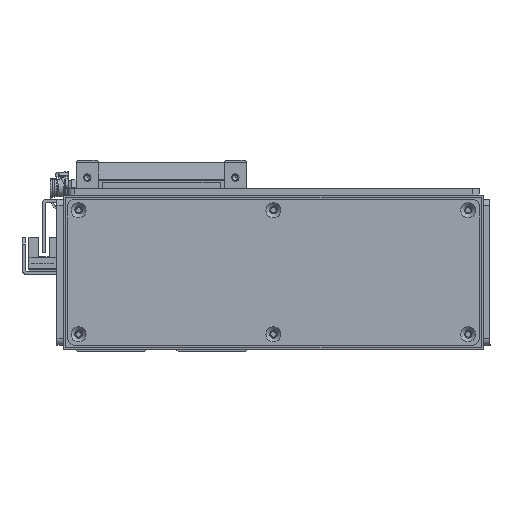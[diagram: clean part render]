
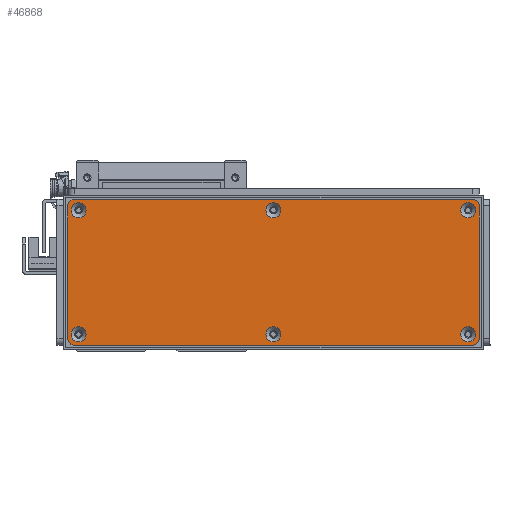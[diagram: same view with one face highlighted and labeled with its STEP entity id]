
A CAD part, front view. The second image highlights one B-rep face of the part: STEP entity #46868.
In plain terms, the highlighted planar face has unit normal (0, -1, 0) as drawn and (0, 0, 1) by its records, which use the part's own axes.
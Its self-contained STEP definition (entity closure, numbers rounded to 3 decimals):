
#2049=FACE_BOUND('',#8298,.T.);
#2050=FACE_BOUND('',#8299,.T.);
#2051=FACE_BOUND('',#8300,.T.);
#2052=FACE_BOUND('',#8301,.T.);
#2053=FACE_BOUND('',#8302,.T.);
#2054=FACE_BOUND('',#8303,.T.);
#2725=PLANE('',#50799);
#5528=FACE_OUTER_BOUND('',#8297,.T.);
#8297=EDGE_LOOP('',(#38183,#38184,#38185,#38186,#38187,#38188,#38189,#38190));
#8298=EDGE_LOOP('',(#38191));
#8299=EDGE_LOOP('',(#38192));
#8300=EDGE_LOOP('',(#38193));
#8301=EDGE_LOOP('',(#38194));
#8302=EDGE_LOOP('',(#38195));
#8303=EDGE_LOOP('',(#38196));
#11549=LINE('',#71815,#16723);
#11552=LINE('',#71823,#16726);
#11555=LINE('',#71831,#16729);
#11558=LINE('',#71838,#16732);
#16723=VECTOR('',#58485,10.);
#16726=VECTOR('',#58494,10.);
#16729=VECTOR('',#58503,10.);
#16732=VECTOR('',#58512,10.);
#21020=CIRCLE('',#50753,3.45);
#21023=CIRCLE('',#50758,3.45);
#21026=CIRCLE('',#50763,3.45);
#21029=CIRCLE('',#50768,3.45);
#21032=CIRCLE('',#50773,3.45);
#21035=CIRCLE('',#50778,3.45);
#21042=CIRCLE('',#50788,3.);
#21043=CIRCLE('',#50791,3.);
#21044=CIRCLE('',#50794,3.);
#21045=CIRCLE('',#50797,3.);
#23230=VERTEX_POINT('',#71731);
#23233=VERTEX_POINT('',#71741);
#23236=VERTEX_POINT('',#71751);
#23239=VERTEX_POINT('',#71761);
#23242=VERTEX_POINT('',#71771);
#23245=VERTEX_POINT('',#71781);
#23256=VERTEX_POINT('',#71808);
#23257=VERTEX_POINT('',#71810);
#23258=VERTEX_POINT('',#71814);
#23259=VERTEX_POINT('',#71818);
#23260=VERTEX_POINT('',#71822);
#23261=VERTEX_POINT('',#71826);
#23262=VERTEX_POINT('',#71830);
#23263=VERTEX_POINT('',#71834);
#28597=EDGE_CURVE('',#23230,#23230,#21020,.T.);
#28602=EDGE_CURVE('',#23233,#23233,#21023,.T.);
#28607=EDGE_CURVE('',#23236,#23236,#21026,.T.);
#28612=EDGE_CURVE('',#23239,#23239,#21029,.T.);
#28617=EDGE_CURVE('',#23242,#23242,#21032,.T.);
#28622=EDGE_CURVE('',#23245,#23245,#21035,.T.);
#28636=EDGE_CURVE('',#23257,#23256,#21042,.T.);
#28638=EDGE_CURVE('',#23258,#23257,#11549,.T.);
#28640=EDGE_CURVE('',#23259,#23258,#21043,.T.);
#28642=EDGE_CURVE('',#23260,#23259,#11552,.T.);
#28644=EDGE_CURVE('',#23261,#23260,#21044,.T.);
#28646=EDGE_CURVE('',#23262,#23261,#11555,.T.);
#28648=EDGE_CURVE('',#23263,#23262,#21045,.T.);
#28650=EDGE_CURVE('',#23256,#23263,#11558,.T.);
#38183=ORIENTED_EDGE('',*,*,#28650,.T.);
#38184=ORIENTED_EDGE('',*,*,#28648,.T.);
#38185=ORIENTED_EDGE('',*,*,#28646,.T.);
#38186=ORIENTED_EDGE('',*,*,#28644,.T.);
#38187=ORIENTED_EDGE('',*,*,#28642,.T.);
#38188=ORIENTED_EDGE('',*,*,#28640,.T.);
#38189=ORIENTED_EDGE('',*,*,#28638,.T.);
#38190=ORIENTED_EDGE('',*,*,#28636,.T.);
#38191=ORIENTED_EDGE('',*,*,#28597,.T.);
#38192=ORIENTED_EDGE('',*,*,#28602,.T.);
#38193=ORIENTED_EDGE('',*,*,#28607,.T.);
#38194=ORIENTED_EDGE('',*,*,#28612,.T.);
#38195=ORIENTED_EDGE('',*,*,#28617,.T.);
#38196=ORIENTED_EDGE('',*,*,#28622,.T.);
#46868=ADVANCED_FACE('',(#5528,#2049,#2050,#2051,#2052,#2053,#2054),#2725,
 .T.);
#50753=AXIS2_PLACEMENT_3D('',#71732,#58393,#58394);
#50758=AXIS2_PLACEMENT_3D('',#71742,#58405,#58406);
#50763=AXIS2_PLACEMENT_3D('',#71752,#58417,#58418);
#50768=AXIS2_PLACEMENT_3D('',#71762,#58429,#58430);
#50773=AXIS2_PLACEMENT_3D('',#71772,#58441,#58442);
#50778=AXIS2_PLACEMENT_3D('',#71782,#58453,#58454);
#50788=AXIS2_PLACEMENT_3D('',#71811,#58480,#58481);
#50791=AXIS2_PLACEMENT_3D('',#71819,#58489,#58490);
#50794=AXIS2_PLACEMENT_3D('',#71827,#58498,#58499);
#50797=AXIS2_PLACEMENT_3D('',#71835,#58507,#58508);
#50799=AXIS2_PLACEMENT_3D('',#71839,#58513,#58514);
#58393=DIRECTION('center_axis',(0.,0.,-1.));
#58394=DIRECTION('ref_axis',(1.,0.,0.));
#58405=DIRECTION('center_axis',(0.,0.,-1.));
#58406=DIRECTION('ref_axis',(1.,0.,0.));
#58417=DIRECTION('center_axis',(0.,0.,-1.));
#58418=DIRECTION('ref_axis',(1.,0.,0.));
#58429=DIRECTION('center_axis',(0.,0.,-1.));
#58430=DIRECTION('ref_axis',(1.,0.,0.));
#58441=DIRECTION('center_axis',(0.,0.,-1.));
#58442=DIRECTION('ref_axis',(1.,0.,0.));
#58453=DIRECTION('center_axis',(0.,0.,-1.));
#58454=DIRECTION('ref_axis',(1.,0.,0.));
#58480=DIRECTION('center_axis',(0.,0.,1.));
#58481=DIRECTION('ref_axis',(0.,1.,0.));
#58485=DIRECTION('',(-1.,0.,0.));
#58489=DIRECTION('center_axis',(0.,0.,1.));
#58490=DIRECTION('ref_axis',(1.,0.,0.));
#58494=DIRECTION('',(0.,1.,0.));
#58498=DIRECTION('center_axis',(0.,0.,1.));
#58499=DIRECTION('ref_axis',(0.,-1.,0.));
#58503=DIRECTION('',(1.,0.,0.));
#58507=DIRECTION('center_axis',(0.,0.,1.));
#58508=DIRECTION('ref_axis',(-1.,0.,0.));
#58512=DIRECTION('',(0.,-1.,0.));
#58513=DIRECTION('center_axis',(0.,0.,1.));
#58514=DIRECTION('ref_axis',(1.,0.,0.));
#71731=CARTESIAN_POINT('',(-3.45,28.5,1.5));
#71732=CARTESIAN_POINT('Origin',(0.,28.5,1.5));
#71741=CARTESIAN_POINT('',(86.05,-28.5,1.5));
#71742=CARTESIAN_POINT('Origin',(89.5,-28.5,1.5));
#71751=CARTESIAN_POINT('',(-92.95,28.5,1.5));
#71752=CARTESIAN_POINT('Origin',(-89.5,28.5,1.5));
#71761=CARTESIAN_POINT('',(86.05,28.5,1.5));
#71762=CARTESIAN_POINT('Origin',(89.5,28.5,1.5));
#71771=CARTESIAN_POINT('',(-92.95,-28.5,1.5));
#71772=CARTESIAN_POINT('Origin',(-89.5,-28.5,1.5));
#71781=CARTESIAN_POINT('',(-3.45,-28.5,1.5));
#71782=CARTESIAN_POINT('Origin',(0.,-28.5,1.5));
#71808=CARTESIAN_POINT('',(-94.5,30.5,1.5));
#71810=CARTESIAN_POINT('',(-91.5,33.5,1.5));
#71811=CARTESIAN_POINT('Origin',(-91.5,30.5,1.5));
#71814=CARTESIAN_POINT('',(91.5,33.5,1.5));
#71815=CARTESIAN_POINT('',(91.5,33.5,1.5));
#71818=CARTESIAN_POINT('',(94.5,30.5,1.5));
#71819=CARTESIAN_POINT('Origin',(91.5,30.5,1.5));
#71822=CARTESIAN_POINT('',(94.5,-30.5,1.5));
#71823=CARTESIAN_POINT('',(94.5,-30.5,1.5));
#71826=CARTESIAN_POINT('',(91.5,-33.5,1.5));
#71827=CARTESIAN_POINT('Origin',(91.5,-30.5,1.5));
#71830=CARTESIAN_POINT('',(-91.5,-33.5,1.5));
#71831=CARTESIAN_POINT('',(-91.5,-33.5,1.5));
#71834=CARTESIAN_POINT('',(-94.5,-30.5,1.5));
#71835=CARTESIAN_POINT('Origin',(-91.5,-30.5,1.5));
#71838=CARTESIAN_POINT('',(-94.5,30.5,1.5));
#71839=CARTESIAN_POINT('Origin',(0.,0.,
1.5));
